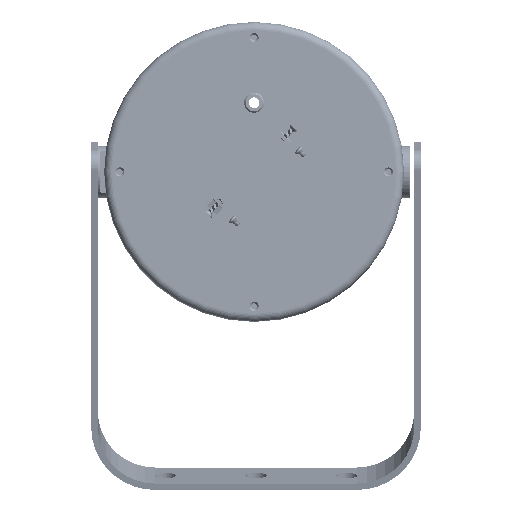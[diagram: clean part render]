
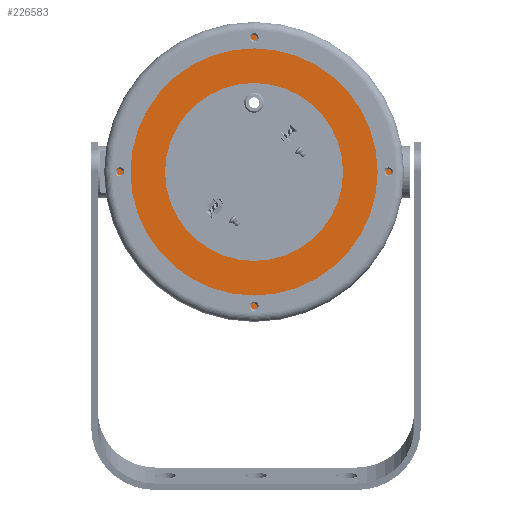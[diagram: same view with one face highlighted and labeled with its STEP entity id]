
A CAD part, front view. The second image highlights one B-rep face of the part: STEP entity #226583.
In plain terms, the highlighted planar face has unit normal (0, -1, 0) as drawn and (0, 0, 1) by its records, which use the part's own axes.
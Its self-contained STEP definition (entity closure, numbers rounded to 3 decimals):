
#34755 = EDGE_LOOP ( 'NONE', ( #120965 ) ) ;
#39350 = DIRECTION ( 'NONE',  ( 1., 0., 0. ) ) ;
#96219 = DIRECTION ( 'NONE',  ( 0., 0., 1. ) ) ;
#99323 = CARTESIAN_POINT ( 'NONE',  ( 54., 0., 1. ) ) ;
#100885 = ORIENTED_EDGE ( 'NONE', *, *, #177187, .F. ) ;
#101077 = AXIS2_PLACEMENT_3D ( 'NONE', #212306, #107517, #105213 ) ;
#101595 = VERTEX_POINT ( 'NONE', #99323 ) ;
#102587 = PLANE ( 'NONE',  #177066 ) ;
#105213 = DIRECTION ( 'NONE',  ( 1., 0., 0. ) ) ;
#107517 = DIRECTION ( 'NONE',  ( 0., 0., 1. ) ) ;
#108274 = DIRECTION ( 'NONE',  ( 0., 0., 1. ) ) ;
#114390 = AXIS2_PLACEMENT_3D ( 'NONE', #184631, #96219, #39350 ) ;
#119420 = CIRCLE ( 'NONE', #101077, 54. ) ;
#120965 = ORIENTED_EDGE ( 'NONE', *, *, #182804, .T. ) ;
#143101 = EDGE_LOOP ( 'NONE', ( #100885 ) ) ;
#144673 = CIRCLE ( 'NONE', #114390, 85. ) ;
#156361 = VERTEX_POINT ( 'NONE', #208686 ) ;
#177066 = AXIS2_PLACEMENT_3D ( 'NONE', #178111, #108274, #197860 ) ;
#177187 = EDGE_CURVE ( 'NONE', #101595, #101595, #119420, .T. ) ;
#178111 = CARTESIAN_POINT ( 'NONE',  ( 0., 0., 1. ) ) ;
#182804 = EDGE_CURVE ( 'NONE', #156361, #156361, #144673, .T. ) ;
#184631 = CARTESIAN_POINT ( 'NONE',  ( 0., 0., 1. ) ) ;
#194450 = FACE_BOUND ( 'NONE', #143101, .T. ) ;
#197860 = DIRECTION ( 'NONE',  ( 1., 0., 0. ) ) ;
#208686 = CARTESIAN_POINT ( 'NONE',  ( 85., 0., 1. ) ) ;
#212306 = CARTESIAN_POINT ( 'NONE',  ( 0., 0., 1. ) ) ;
#225961 = FACE_OUTER_BOUND ( 'NONE', #34755, .T. ) ;
#226583 = ADVANCED_FACE ( 'NONE', ( #194450, #225961 ), #102587, .T. ) ;
